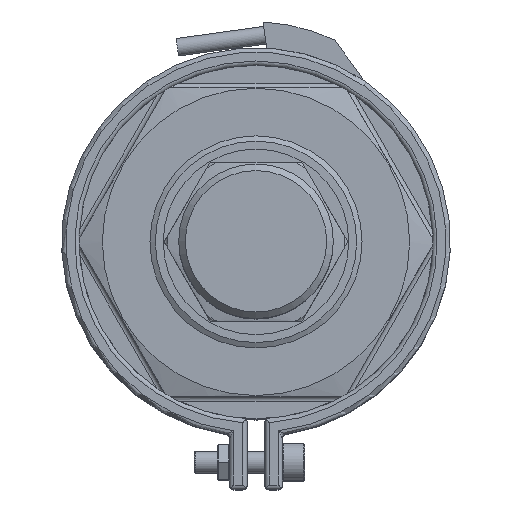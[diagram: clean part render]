
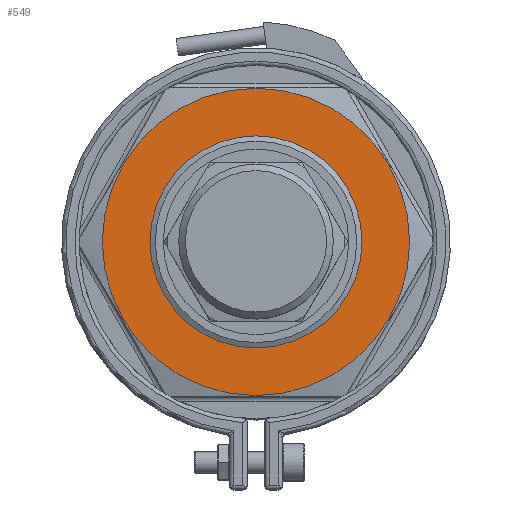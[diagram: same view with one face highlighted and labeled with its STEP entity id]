
A CAD part, top view. The second image highlights one B-rep face of the part: STEP entity #549.
In plain terms, the highlighted planar face has unit normal (0, 0, 1).
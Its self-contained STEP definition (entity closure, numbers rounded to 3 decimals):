
#549=ADVANCED_FACE('',(#1205,#1206),#1207,.F.);
#1205=FACE_OUTER_BOUND('',#2721,.T.);
#1206=FACE_BOUND('',#2722,.T.);
#1207=PLANE('',#2723);
#2721=EDGE_LOOP('',(#4146));
#2722=EDGE_LOOP('',(#4147));
#2723=AXIS2_PLACEMENT_3D('',#4148,#4149,#4150);
#4146=ORIENTED_EDGE('',*,*,#5248,.F.);
#4147=ORIENTED_EDGE('',*,*,#5249,.T.);
#4148=CARTESIAN_POINT('',(-34.788,0.0,0.0));
#4149=DIRECTION('',(-0.0,0.,-1.0));
#4150=DIRECTION('',(0.0,1.0,0.));
#5248=EDGE_CURVE('',#6109,#6109,#6110,.T.);
#5249=EDGE_CURVE('',#6111,#6111,#6112,.T.);
#6109=VERTEX_POINT('',#7548);
#6110=CIRCLE('',#7549,34.788);
#6111=VERTEX_POINT('',#7550);
#6112=CIRCLE('',#7551,24.);
#7548=CARTESIAN_POINT('',(0.0,34.788,0.));
#7549=AXIS2_PLACEMENT_3D('',#8610,#8611,#8612);
#7550=CARTESIAN_POINT('',(0.0,24.,0.));
#7551=AXIS2_PLACEMENT_3D('',#8613,#8614,#8615);
#8610=CARTESIAN_POINT('',(0.0,0.0,0.0));
#8611=DIRECTION('',(-0.0,0.,-1.0));
#8612=DIRECTION('',(0.0,1.0,0.));
#8613=CARTESIAN_POINT('',(0.0,0.0,0.0));
#8614=DIRECTION('',(-0.0,0.,-1.0));
#8615=DIRECTION('',(0.0,1.0,0.));
